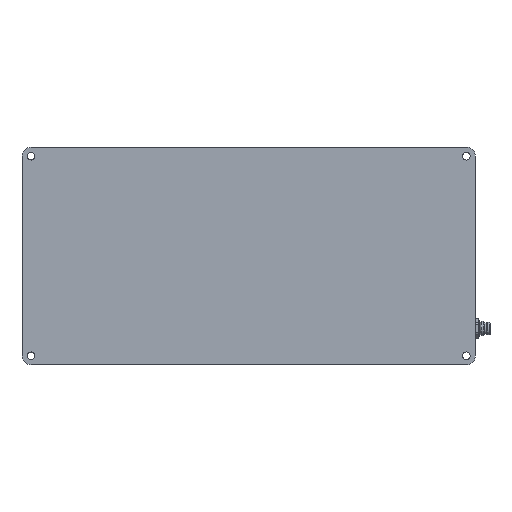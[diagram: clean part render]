
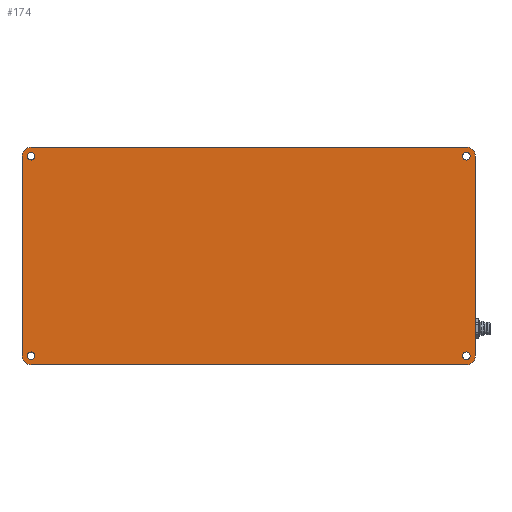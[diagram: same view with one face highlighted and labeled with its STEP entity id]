
A CAD part, front view. The second image highlights one B-rep face of the part: STEP entity #174.
In plain terms, the highlighted planar face has unit normal (0, -1, 0).
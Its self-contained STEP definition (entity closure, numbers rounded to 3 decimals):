
#10 = FACE_BOUND ( 'NONE', #2605, .T. ) ;
#84 = CIRCLE ( 'NONE', #2537, 2.1 ) ;
#121 = AXIS2_PLACEMENT_3D ( 'NONE', #3113, #311, #2085 ) ;
#146 = ORIENTED_EDGE ( 'NONE', *, *, #1280, .T. ) ;
#174 = ADVANCED_FACE ( 'NONE', ( #10, #1578, #4186, #3917, #3300 ), #264, .F. ) ;
#209 = DIRECTION ( 'NONE',  ( 0., 0., 1. ) ) ;
#241 = CARTESIAN_POINT ( 'NONE',  ( 125., 0., -55. ) ) ;
#264 = PLANE ( 'NONE',  #1172 ) ;
#311 = DIRECTION ( 'NONE',  ( 0., 1., 0. ) ) ;
#432 = DIRECTION ( 'NONE',  ( 0., -1., 0. ) ) ;
#458 = AXIS2_PLACEMENT_3D ( 'NONE', #1528, #778, #3245 ) ;
#476 = VERTEX_POINT ( 'NONE', #2304 ) ;
#591 = CARTESIAN_POINT ( 'NONE',  ( -120., 0., -55. ) ) ;
#640 = CARTESIAN_POINT ( 'NONE',  ( 0., 0., 0. ) ) ;
#655 = DIRECTION ( 'NONE',  ( 0., 0., 1. ) ) ;
#702 = CIRCLE ( 'NONE', #121, 2.1 ) ;
#758 = VERTEX_POINT ( 'NONE', #2210 ) ;
#759 = ORIENTED_EDGE ( 'NONE', *, *, #2224, .T. ) ;
#778 = DIRECTION ( 'NONE',  ( 0., 1., 0. ) ) ;
#785 = ORIENTED_EDGE ( 'NONE', *, *, #4456, .F. ) ;
#818 = VERTEX_POINT ( 'NONE', #1728 ) ;
#844 = ORIENTED_EDGE ( 'NONE', *, *, #3673, .F. ) ;
#936 = CARTESIAN_POINT ( 'NONE',  ( -125., 0., -55. ) ) ;
#978 = DIRECTION ( 'NONE',  ( 0., 1., 0. ) ) ;
#984 = EDGE_LOOP ( 'NONE', ( #3119 ) ) ;
#992 = AXIS2_PLACEMENT_3D ( 'NONE', #3910, #2918, #2871 ) ;
#1001 = DIRECTION ( 'NONE',  ( 0., 0., 1. ) ) ;
#1097 = VECTOR ( 'NONE', #3838, 1000. ) ;
#1101 = EDGE_CURVE ( 'NONE', #818, #3333, #3120, .T. ) ;
#1172 = AXIS2_PLACEMENT_3D ( 'NONE', #640, #3152, #1001 ) ;
#1236 = VERTEX_POINT ( 'NONE', #936 ) ;
#1240 = ORIENTED_EDGE ( 'NONE', *, *, #3458, .T. ) ;
#1280 = EDGE_CURVE ( 'NONE', #2798, #2798, #1997, .T. ) ;
#1495 = CARTESIAN_POINT ( 'NONE',  ( -125., 0., -60. ) ) ;
#1528 = CARTESIAN_POINT ( 'NONE',  ( -120., 0., 55. ) ) ;
#1557 = CARTESIAN_POINT ( 'NONE',  ( 120., 0., -55. ) ) ;
#1578 = FACE_BOUND ( 'NONE', #984, .T. ) ;
#1579 = DIRECTION ( 'NONE',  ( 0., 0., 1. ) ) ;
#1627 = EDGE_CURVE ( 'NONE', #3051, #4029, #3437, .T. ) ;
#1711 = CIRCLE ( 'NONE', #458, 2.1 ) ;
#1728 = CARTESIAN_POINT ( 'NONE',  ( 125., 0., 55. ) ) ;
#1768 = CARTESIAN_POINT ( 'NONE',  ( -120., 0., -52.9 ) ) ;
#1877 = EDGE_LOOP ( 'NONE', ( #3930, #3974, #844, #4254, #2766, #2714, #785, #1240 ) ) ;
#1902 = VECTOR ( 'NONE', #2978, 1000. ) ;
#1990 = ORIENTED_EDGE ( 'NONE', *, *, #2573, .T. ) ;
#1997 = CIRCLE ( 'NONE', #2055, 2.1 ) ;
#2055 = AXIS2_PLACEMENT_3D ( 'NONE', #2740, #978, #2363 ) ;
#2085 = DIRECTION ( 'NONE',  ( 0., 0., 1. ) ) ;
#2164 = VERTEX_POINT ( 'NONE', #2238 ) ;
#2210 = CARTESIAN_POINT ( 'NONE',  ( 120., 0., 57.1 ) ) ;
#2224 = EDGE_CURVE ( 'NONE', #3084, #3084, #1711, .T. ) ;
#2226 = CARTESIAN_POINT ( 'NONE',  ( -120., 0., 57.1 ) ) ;
#2238 = CARTESIAN_POINT ( 'NONE',  ( 120., 0., -60. ) ) ;
#2285 = LINE ( 'NONE', #1495, #3182 ) ;
#2304 = CARTESIAN_POINT ( 'NONE',  ( -120., 0., -60. ) ) ;
#2363 = DIRECTION ( 'NONE',  ( 0., 0., 1. ) ) ;
#2369 = EDGE_LOOP ( 'NONE', ( #1990 ) ) ;
#2467 = LINE ( 'NONE', #3127, #1097 ) ;
#2537 = AXIS2_PLACEMENT_3D ( 'NONE', #3816, #3122, #655 ) ;
#2544 = CARTESIAN_POINT ( 'NONE',  ( -125., 0., 60. ) ) ;
#2547 = VERTEX_POINT ( 'NONE', #241 ) ;
#2558 = CARTESIAN_POINT ( 'NONE',  ( 120., 0., 55. ) ) ;
#2573 = EDGE_CURVE ( 'NONE', #758, #758, #84, .T. ) ;
#2605 = EDGE_LOOP ( 'NONE', ( #146 ) ) ;
#2659 = EDGE_LOOP ( 'NONE', ( #759 ) ) ;
#2714 = ORIENTED_EDGE ( 'NONE', *, *, #1627, .T. ) ;
#2736 = CIRCLE ( 'NONE', #3666, 5. ) ;
#2740 = CARTESIAN_POINT ( 'NONE',  ( -120., 0., -55. ) ) ;
#2766 = ORIENTED_EDGE ( 'NONE', *, *, #2814, .F. ) ;
#2798 = VERTEX_POINT ( 'NONE', #1768 ) ;
#2814 = EDGE_CURVE ( 'NONE', #3051, #3333, #4024, .T. ) ;
#2821 = CARTESIAN_POINT ( 'NONE',  ( -125., 0., 55. ) ) ;
#2871 = DIRECTION ( 'NONE',  ( 0., 0., 1. ) ) ;
#2918 = DIRECTION ( 'NONE',  ( 0., -1., 0. ) ) ;
#2938 = CARTESIAN_POINT ( 'NONE',  ( 120., 0., 60. ) ) ;
#2944 = EDGE_CURVE ( 'NONE', #4420, #4420, #702, .T. ) ;
#2978 = DIRECTION ( 'NONE',  ( 0., 0., -1. ) ) ;
#3051 = VERTEX_POINT ( 'NONE', #4297 ) ;
#3084 = VERTEX_POINT ( 'NONE', #2226 ) ;
#3113 = CARTESIAN_POINT ( 'NONE',  ( 120., 0., -55. ) ) ;
#3119 = ORIENTED_EDGE ( 'NONE', *, *, #2944, .T. ) ;
#3120 = CIRCLE ( 'NONE', #3242, 5. ) ;
#3122 = DIRECTION ( 'NONE',  ( 0., 1., 0. ) ) ;
#3127 = CARTESIAN_POINT ( 'NONE',  ( -125., 0., 60. ) ) ;
#3152 = DIRECTION ( 'NONE',  ( 0., 1., 0. ) ) ;
#3182 = VECTOR ( 'NONE', #4334, 1000. ) ;
#3242 = AXIS2_PLACEMENT_3D ( 'NONE', #2558, #432, #1579 ) ;
#3245 = DIRECTION ( 'NONE',  ( 0., 0., 1. ) ) ;
#3300 = FACE_OUTER_BOUND ( 'NONE', #1877, .T. ) ;
#3302 = DIRECTION ( 'NONE',  ( 0., 0., 1. ) ) ;
#3333 = VERTEX_POINT ( 'NONE', #2938 ) ;
#3414 = VECTOR ( 'NONE', #4365, 1000. ) ;
#3437 = CIRCLE ( 'NONE', #992, 5. ) ;
#3458 = EDGE_CURVE ( 'NONE', #1236, #476, #2736, .T. ) ;
#3523 = EDGE_CURVE ( 'NONE', #2164, #476, #2285, .T. ) ;
#3619 = CIRCLE ( 'NONE', #3971, 5. ) ;
#3639 = CARTESIAN_POINT ( 'NONE',  ( 125., 0., 60. ) ) ;
#3666 = AXIS2_PLACEMENT_3D ( 'NONE', #591, #3775, #209 ) ;
#3673 = EDGE_CURVE ( 'NONE', #818, #2547, #3961, .T. ) ;
#3680 = EDGE_CURVE ( 'NONE', #2164, #2547, #3619, .T. ) ;
#3775 = DIRECTION ( 'NONE',  ( 0., -1., 0. ) ) ;
#3816 = CARTESIAN_POINT ( 'NONE',  ( 120., 0., 55. ) ) ;
#3838 = DIRECTION ( 'NONE',  ( 0., 0., 1. ) ) ;
#3910 = CARTESIAN_POINT ( 'NONE',  ( -120., 0., 55. ) ) ;
#3917 = FACE_BOUND ( 'NONE', #2659, .T. ) ;
#3930 = ORIENTED_EDGE ( 'NONE', *, *, #3523, .F. ) ;
#3961 = LINE ( 'NONE', #3639, #1902 ) ;
#3971 = AXIS2_PLACEMENT_3D ( 'NONE', #1557, #4027, #3302 ) ;
#3974 = ORIENTED_EDGE ( 'NONE', *, *, #3680, .T. ) ;
#4024 = LINE ( 'NONE', #2544, #3414 ) ;
#4027 = DIRECTION ( 'NONE',  ( 0., -1., 0. ) ) ;
#4029 = VERTEX_POINT ( 'NONE', #2821 ) ;
#4186 = FACE_BOUND ( 'NONE', #2369, .T. ) ;
#4254 = ORIENTED_EDGE ( 'NONE', *, *, #1101, .T. ) ;
#4297 = CARTESIAN_POINT ( 'NONE',  ( -120., 0., 60. ) ) ;
#4308 = CARTESIAN_POINT ( 'NONE',  ( 120., 0., -52.9 ) ) ;
#4334 = DIRECTION ( 'NONE',  ( -1., 0., 0. ) ) ;
#4365 = DIRECTION ( 'NONE',  ( 1., 0., 0. ) ) ;
#4420 = VERTEX_POINT ( 'NONE', #4308 ) ;
#4456 = EDGE_CURVE ( 'NONE', #1236, #4029, #2467, .T. ) ;
